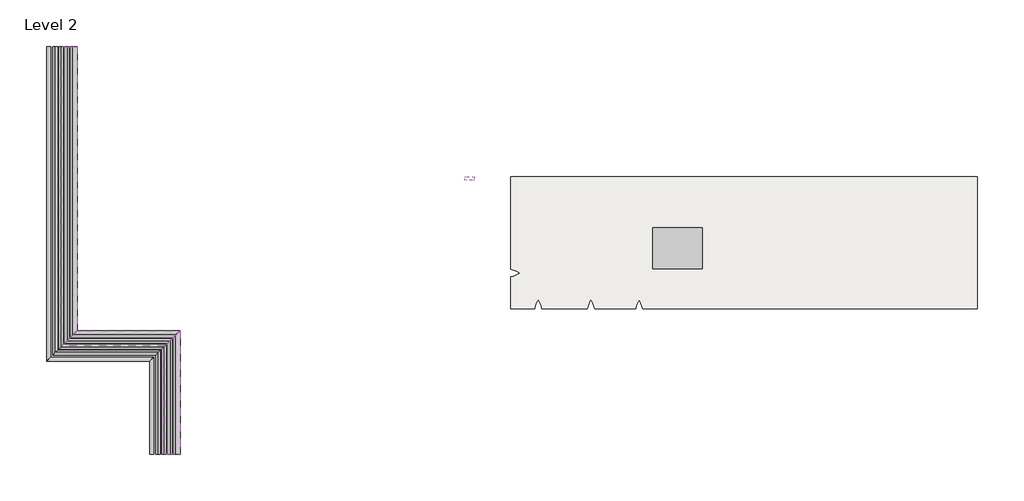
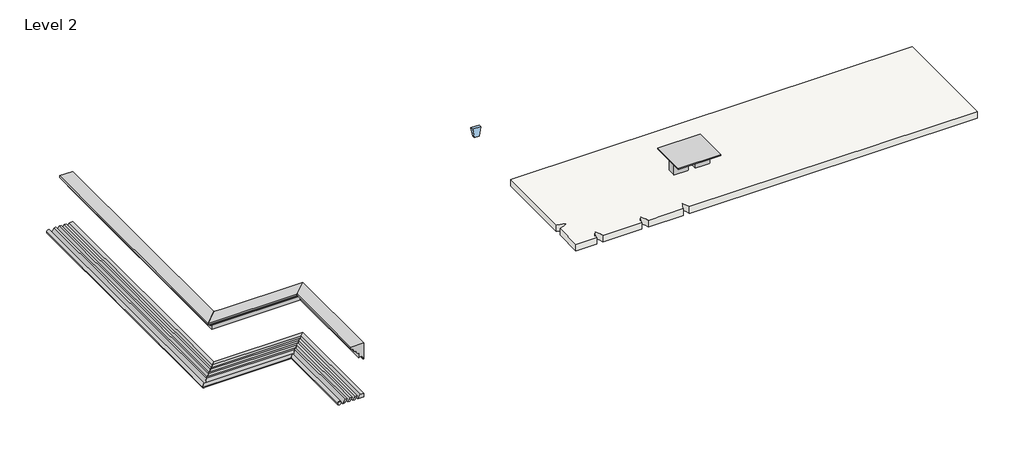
# One storey, incomplete: 6 proxies, 1 furniture element, 1 slab, 1 window.
"""IFC4 building model written with IfcOpenShell, lengths in millimetres."""

from ifc_helpers import new_model, si_unit, point, frame, frame_2d, origin, place, context, project, spatial, polyline, circle_curve, ellipse_curve, trimmed, segment, composite_curve, outline, extrude, faceted_brep, transform, mapped, element, save
from ifc_brep_helpers import plane_surface, cylinder_surface, revolved_surface, advanced_brep
from components import tn_table_a_two_legs_tn_table_a_standard_d0ec0840, window_f5e32f70

model = new_model("IFC4")

# Units and contexts
model_context = context("Model", 3, world=origin())
ifc_project = project(units=[si_unit("LENGTHUNIT", "METRE", prefix="MILLI")], contexts=[model_context])

# Site, building, storey
site = spatial("IfcSite", under=ifc_project)
building = spatial("IfcBuilding", under=site)
storey = spatial("IfcBuildingStorey", under=building, Name="Level 2", Elevation=3048.0)

# Proxies
placement = place(None, origin())
element("IfcBuildingElementProxy", 1, Name="Wall Sweeps", at=placement, inside=storey, context=model_context, shape_type="SolidModel", body=[
    faceted_brep([(-19533.1471749, -3846.1505669, 3657.6), (-19533.1471749, -3846.1505669, 3810.0), (-19685.5471749, -3846.1505669, 3810.0), (-19787.1471749, -3846.1505669, 3657.6), (-19533.1471749, 725.8494331, 3657.6), (-19787.1471749, 471.8494331, 3657.6), (-19685.5471749, 573.4494331, 3810.0), (-19533.1471749, 725.8494331, 3810.0)], [[[0, 1, 2, 3]], [[4, 5, 6, 7]], [[1, 0, 4, 7]], [[2, 1, 7, 6]], [[3, 2, 6, 5]], [[0, 3, 5, 4]]]),
    advanced_brep(
    [(-20511.0471749, -3846.1505669, 3733.8), (-20663.4471749, -3846.1505669, 3733.8), (-20511.0471749, -252.0505669, 3733.8), (-20663.4471749, -404.4505669, 3733.8)],
    [
        (0, 1, circle_curve(frame((-20587.2471749, -3846.1505669, 3733.8), z_axis=(0.0, -1.0, 0.0), x_axis=(-1.0, 0.0, 0.0)), 76.2)),
        (1, 0, circle_curve(frame((-20587.2471749, -3846.1505669, 3733.8), z_axis=(0.0, -1.0, 0.0), x_axis=(-1.0, 0.0, 0.0)), 76.2)),
        (2, 3, ellipse_curve(frame((-20587.2471749, -328.2505669, 3733.8), z_axis=(-0.7071067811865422, 0.7071067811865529, 0.0), x_axis=(-0.7071067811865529, -0.707106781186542, 0.0)), 107.7630735, 76.2)),
        (3, 2, ellipse_curve(frame((-20587.2471749, -328.2505669, 3733.8), z_axis=(-0.7071067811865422, 0.7071067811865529, 0.0), x_axis=(-0.7071067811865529, -0.707106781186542, 0.0)), 107.7630735, 76.2)),
        (0, 2),
        (3, 1),
    ],
    [
        plane_surface(frame((-20666.0128024, -3846.1505669, 3657.6), z_axis=(0.0, -1.0, 0.0), x_axis=(0.0, 0.0, 1.0))),
        plane_surface(frame((-19533.1471749, 725.8494331, 3352.8), z_axis=(-0.7071067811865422, 0.7071067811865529, 0.0), x_axis=(-0.7071067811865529, -0.7071067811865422, 0.0))),
        cylinder_surface(frame((-20587.2471749, -3846.1505669, 3733.8), z_axis=(0.0, -1.0, 0.0), x_axis=(-1.0, 0.0, 0.0)), 76.2),
    ],
    [
        (0, [[1, 2]]),
        (1, [[3, 4]]),
        (2, [[-1, 5, -4, 6]]),
        (2, [[-2, -6, -3, -5]]),
    ],
),
    faceted_brep([(-20358.6471749, -3846.1505669, 3657.6), (-20257.0471749, -3846.1505669, 3810.0), (-20333.2471749, -3846.1505669, 3810.0), (-20434.8471749, -3846.1505669, 3657.6), (-20358.6471749, -99.6505669, 3657.6), (-20434.8471749, -175.8505669, 3657.6), (-20333.2471749, -74.2505669, 3810.0), (-20257.0471749, 1.9494331, 3810.0)], [[[0, 1, 2, 3]], [[4, 5, 6, 7]], [[1, 0, 4, 7]], [[2, 1, 7, 6]], [[3, 2, 6, 5]], [[0, 3, 5, 4]]]),
    faceted_brep([(-20142.7471749, -3846.1505669, 3657.6), (-20041.1471749, -3846.1505669, 3810.0), (-20117.3471749, -3846.1505669, 3810.0), (-20218.9471749, -3846.1505669, 3657.6), (-20142.7471749, 116.2494331, 3657.6), (-20218.9471749, 40.0494331, 3657.6), (-20117.3471749, 141.6494331, 3810.0), (-20041.1471749, 217.8494331, 3810.0)], [[[0, 1, 2, 3]], [[4, 5, 6, 7]], [[1, 0, 4, 7]], [[2, 1, 7, 6]], [[3, 2, 6, 5]], [[0, 3, 5, 4]]]),
    faceted_brep([(-19926.8471749, -3846.1505669, 3657.6), (-19825.2471749, -3846.1505669, 3810.0), (-19901.4471749, -3846.1505669, 3810.0), (-20003.0471749, -3846.1505669, 3657.6), (-19926.8471749, 332.1494331, 3657.6), (-20003.0471749, 255.9494331, 3657.6), (-19901.4471749, 357.5494331, 3810.0), (-19825.2471749, 433.7494331, 3810.0)], [[[0, 1, 2, 3]], [[4, 5, 6, 7]], [[1, 0, 4, 7]], [[2, 1, 7, 6]], [[3, 2, 6, 5]], [[0, 3, 5, 4]]]),
])
element("IfcBuildingElementProxy", 2, Name="Wall Sweeps", at=placement, inside=storey, context=model_context, shape_type="SolidModel", body=[
    faceted_brep([(-19533.1471749, 725.8494331, 3657.6), (-19533.1471749, 725.8494331, 3810.0), (-19685.5471749, 573.4494331, 3810.0), (-19787.1471749, 471.8494331, 3657.6), (-23343.1471749, 725.8494331, 3657.6), (-23597.1471749, 471.8494331, 3657.6), (-23495.5471749, 573.4494331, 3810.0), (-23343.1471749, 725.8494331, 3810.0)], [[[0, 1, 2, 3]], [[4, 5, 6, 7]], [[1, 0, 4, 7]], [[2, 1, 7, 6]], [[3, 2, 6, 5]], [[0, 3, 5, 4]]]),
    advanced_brep(
    [(-20511.0471749, -252.0505669, 3733.8), (-20663.4471749, -404.4505669, 3733.8), (-24321.0471749, -252.0505669, 3733.8), (-24473.4471749, -404.4505669, 3733.8)],
    [
        (0, 1, ellipse_curve(frame((-20587.2471749, -328.2505669, 3733.8), z_axis=(0.7071067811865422, -0.7071067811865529, 0.0), x_axis=(0.7071067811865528, 0.7071067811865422, 0.0)), 107.7630735, 76.2)),
        (1, 0, ellipse_curve(frame((-20587.2471749, -328.2505669, 3733.8), z_axis=(0.7071067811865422, -0.7071067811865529, 0.0), x_axis=(0.7071067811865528, 0.7071067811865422, 0.0)), 107.7630735, 76.2)),
        (2, 3, ellipse_curve(frame((-24397.2471749, -328.2505669, 3733.8), z_axis=(-0.7071067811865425, 0.7071067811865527, 0.0), x_axis=(0.7071067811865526, 0.7071067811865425, 0.0)), 107.7630735, 76.2)),
        (3, 2, ellipse_curve(frame((-24397.2471749, -328.2505669, 3733.8), z_axis=(-0.7071067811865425, 0.7071067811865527, 0.0), x_axis=(0.7071067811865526, 0.7071067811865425, 0.0)), 107.7630735, 76.2)),
        (0, 2),
        (3, 1),
    ],
    [
        plane_surface(frame((-19533.1471749, 725.8494331, 3352.8), z_axis=(0.7071067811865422, -0.7071067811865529, 0.0), x_axis=(-0.7071067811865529, -0.7071067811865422, 0.0))),
        plane_surface(frame((-23343.1471749, 725.8494331, 3962.4), z_axis=(-0.7071067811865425, 0.7071067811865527, 0.0), x_axis=(0.7071067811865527, 0.7071067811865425, 0.0))),
        cylinder_surface(frame((-19533.1471749, -328.2505669, 3733.8), z_axis=(1.0, 0.0, 0.0), x_axis=(0.0, -1.0, 0.0)), 76.2),
    ],
    [
        (0, [[1, 2]]),
        (1, [[3, 4]]),
        (2, [[-1, 5, -4, 6]]),
        (2, [[-2, -6, -3, -5]]),
    ],
),
    faceted_brep([(-20358.6471749, -99.6505669, 3657.6), (-20257.0471749, 1.9494331, 3810.0), (-20333.2471749, -74.2505669, 3810.0), (-20434.8471749, -175.8505669, 3657.6), (-24168.6471749, -99.6505669, 3657.6), (-24244.8471749, -175.8505669, 3657.6), (-24143.2471749, -74.2505669, 3810.0), (-24067.0471749, 1.9494331, 3810.0)], [[[0, 1, 2, 3]], [[4, 5, 6, 7]], [[1, 0, 4, 7]], [[2, 1, 7, 6]], [[3, 2, 6, 5]], [[0, 3, 5, 4]]]),
    faceted_brep([(-20142.7471749, 116.2494331, 3657.6), (-20041.1471749, 217.8494331, 3810.0), (-20117.3471749, 141.6494331, 3810.0), (-20218.9471749, 40.0494331, 3657.6), (-23952.7471749, 116.2494331, 3657.6), (-24028.9471749, 40.0494331, 3657.6), (-23927.3471749, 141.6494331, 3810.0), (-23851.1471749, 217.8494331, 3810.0)], [[[0, 1, 2, 3]], [[4, 5, 6, 7]], [[1, 0, 4, 7]], [[2, 1, 7, 6]], [[3, 2, 6, 5]], [[0, 3, 5, 4]]]),
    faceted_brep([(-19926.8471749, 332.1494331, 3657.6), (-19825.2471749, 433.7494331, 3810.0), (-19901.4471749, 357.5494331, 3810.0), (-20003.0471749, 255.9494331, 3657.6), (-23736.8471749, 332.1494331, 3657.6), (-23813.0471749, 255.9494331, 3657.6), (-23711.4471749, 357.5494331, 3810.0), (-23635.2471749, 433.7494331, 3810.0)], [[[0, 1, 2, 3]], [[4, 5, 6, 7]], [[1, 0, 4, 7]], [[2, 1, 7, 6]], [[3, 2, 6, 5]], [[0, 3, 5, 4]]]),
])
element("IfcBuildingElementProxy", 3, Name="Wall Sweeps", at=placement, inside=storey, context=model_context, shape_type="SolidModel", body=[
    faceted_brep([(-23343.1471749, 725.8494331, 3657.6), (-23343.1471749, 725.8494331, 3810.0), (-23495.5471749, 573.4494331, 3810.0), (-23597.1471749, 471.8494331, 3657.6), (-23343.1471749, 11241.4494331, 3657.6), (-23597.1471749, 11241.4494331, 3657.6), (-23495.5471749, 11241.4494331, 3810.0), (-23343.1471749, 11241.4494331, 3810.0)], [[[0, 1, 2, 3]], [[4, 5, 6, 7]], [[1, 0, 4, 7]], [[2, 1, 7, 6]], [[3, 2, 6, 5]], [[0, 3, 5, 4]]]),
    advanced_brep(
    [(-24321.0471749, -252.0505669, 3733.8), (-24473.4471749, -404.4505669, 3733.8), (-24321.0471749, 11241.4494331, 3733.8), (-24473.4471749, 11241.4494331, 3733.8)],
    [
        (0, 1, ellipse_curve(frame((-24397.2471749, -328.2505669, 3733.8), z_axis=(0.7071067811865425, -0.7071067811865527, 0.0), x_axis=(-0.7071067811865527, -0.7071067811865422, 0.0)), 107.7630735, 76.2)),
        (1, 0, ellipse_curve(frame((-24397.2471749, -328.2505669, 3733.8), z_axis=(0.7071067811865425, -0.7071067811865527, 0.0), x_axis=(-0.7071067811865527, -0.7071067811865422, 0.0)), 107.7630735, 76.2)),
        (2, 3, circle_curve(frame((-24397.2471749, 11241.4494331, 3733.8), z_axis=(0.0, 1.0, 0.0), x_axis=(-1.0, 0.0, 0.0)), 76.2)),
        (3, 2, circle_curve(frame((-24397.2471749, 11241.4494331, 3733.8), z_axis=(0.0, 1.0, 0.0), x_axis=(-1.0, 0.0, 0.0)), 76.2)),
        (0, 2),
        (3, 1),
    ],
    [
        plane_surface(frame((-23343.1471749, 725.8494331, 3962.4), z_axis=(0.7071067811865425, -0.7071067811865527, 0.0), x_axis=(0.7071067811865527, 0.7071067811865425, 0.0))),
        plane_surface(frame((-24476.0128024, 11241.4494331, 3657.6), z_axis=(0.0, 1.0, 0.0), x_axis=(0.0, 0.0, 1.0))),
        cylinder_surface(frame((-24397.2471749, 725.8494331, 3733.8), z_axis=(0.0, -1.0, 0.0), x_axis=(-1.0, 0.0, 0.0)), 76.2),
    ],
    [
        (0, [[1, 2]]),
        (1, [[3, 4]]),
        (2, [[-1, 5, -4, 6]]),
        (2, [[-2, -6, -3, -5]]),
    ],
),
    faceted_brep([(-24168.6471749, -99.6505669, 3657.6), (-24067.0471749, 1.9494331, 3810.0), (-24143.2471749, -74.2505669, 3810.0), (-24244.8471749, -175.8505669, 3657.6), (-24168.6471749, 11241.4494331, 3657.6), (-24244.8471749, 11241.4494331, 3657.6), (-24143.2471749, 11241.4494331, 3810.0), (-24067.0471749, 11241.4494331, 3810.0)], [[[0, 1, 2, 3]], [[4, 5, 6, 7]], [[1, 0, 4, 7]], [[2, 1, 7, 6]], [[3, 2, 6, 5]], [[0, 3, 5, 4]]]),
    faceted_brep([(-23952.7471749, 116.2494331, 3657.6), (-23851.1471749, 217.8494331, 3810.0), (-23927.3471749, 141.6494331, 3810.0), (-24028.9471749, 40.0494331, 3657.6), (-23952.7471749, 11241.4494331, 3657.6), (-24028.9471749, 11241.4494331, 3657.6), (-23927.3471749, 11241.4494331, 3810.0), (-23851.1471749, 11241.4494331, 3810.0)], [[[0, 1, 2, 3]], [[4, 5, 6, 7]], [[1, 0, 4, 7]], [[2, 1, 7, 6]], [[3, 2, 6, 5]], [[0, 3, 5, 4]]]),
    faceted_brep([(-23736.8471749, 332.1494331, 3657.6), (-23635.2471749, 433.7494331, 3810.0), (-23711.4471749, 357.5494331, 3810.0), (-23813.0471749, 255.9494331, 3657.6), (-23736.8471749, 11241.4494331, 3657.6), (-23813.0471749, 11241.4494331, 3657.6), (-23711.4471749, 11241.4494331, 3810.0), (-23635.2471749, 11241.4494331, 3810.0)], [[[0, 1, 2, 3]], [[4, 5, 6, 7]], [[1, 0, 4, 7]], [[2, 1, 7, 6]], [[3, 2, 6, 5]], [[0, 3, 5, 4]]]),
])
element("IfcBuildingElementProxy", 4, Name="Wall Sweeps", at=placement, inside=storey, context=model_context, shape_type="AdvancedBrep", body=[
    advanced_brep(
    [(-19761.7471749, -3846.1505669, 5511.8), (-19736.3471749, -3846.1505669, 5511.8), (-19710.9471749, -3846.1505669, 5537.2), (-19634.7471749, -3846.1505669, 5537.2), (-19634.7471749, -3846.1505669, 5511.8), (-19579.8253223, -3846.1505669, 5435.6), (-19558.5471749, -3846.1505669, 5435.6), (-19558.5471749, -3846.1505669, 5384.8), (-19533.1471749, -3846.1505669, 5384.8), (-19533.1471749, -3846.1505669, 6096.0), (-20091.9471749, -3846.1505669, 6096.0), (-20091.9471749, -3846.1505669, 6019.8), (-19990.3471749, -3846.1505669, 5930.9), (-19888.7471749, -3846.1505669, 5842.0), (-19888.7471749, -3846.1505669, 5816.6), (-19864.9106163, -3846.1505669, 5816.6), (-19825.2471749, -3846.1505669, 5765.8), (-19785.5837335, -3846.1505669, 5715.0), (-19761.7471749, -3846.1505669, 5715.0), (-19761.7471749, 497.2494331, 5511.8), (-19761.7471749, 497.2494331, 5715.0), (-19785.5837335, 473.4128745, 5715.0), (-19825.2471749, 433.7494331, 5765.8), (-19864.9106163, 394.0859916, 5816.6), (-19888.7471749, 370.2494331, 5816.6), (-19888.7471749, 370.2494331, 5842.0), (-19990.3471749, 268.6494331, 5930.9), (-20091.9471749, 167.0494331, 6019.8), (-20091.9471749, 167.0494331, 6096.0), (-19533.1471749, 725.8494331, 6096.0), (-19533.1471749, 725.8494331, 5384.8), (-19558.5471749, 700.4494331, 5384.8), (-19558.5471749, 700.4494331, 5435.6), (-19579.8253223, 679.1712856, 5435.6), (-19634.7471749, 624.2494331, 5511.8), (-19634.7471749, 624.2494331, 5537.2), (-19710.9471749, 548.0494331, 5537.2), (-19736.3471749, 522.6494331, 5511.8)],
    [
        (0, 1),
        (1, 2, circle_curve(frame((-19710.9471749, -3846.1505669, 5511.8), z_axis=(0.0, 1.0, 0.0), x_axis=(-1.0, 0.0, 0.0)), 25.4)),
        (2, 3),
        (3, 4),
        (4, 5, circle_curve(frame((-19660.1471749, -3846.1505669, 5435.6), z_axis=(0.0, 1.0, 0.0), x_axis=(-1.0, 0.0, 0.0)), 80.3218526)),
        (5, 6),
        (6, 7, circle_curve(frame((-19558.5471749, -3846.1505669, 5410.2), z_axis=(0.0, -1.0, 0.0), x_axis=(-1.0, 0.0, 0.0)), 25.4)),
        (7, 8),
        (8, 9),
        (9, 10),
        (10, 11),
        (11, 12, circle_curve(frame((-20102.2659249, -3846.1505669, 5905.5), z_axis=(0.0, 1.0, 0.0), x_axis=(-1.0, 0.0, 0.0)), 114.7648317)),
        (12, 13, circle_curve(frame((-19878.4284249, -3846.1505669, 5956.3), z_axis=(0.0, -1.0, 0.0), x_axis=(-0.13274336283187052, 0.0, 0.9911504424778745)), 114.7648317)),
        (13, 14),
        (14, 15),
        (15, 16, circle_curve(frame((-19812.5471749, -3846.1505669, 5816.6), z_axis=(0.0, -1.0, 0.0), x_axis=(-1.0, 0.0, 0.0)), 52.3634414)),
        (16, 17, circle_curve(frame((-19837.9471749, -3846.1505669, 5715.0), z_axis=(0.0, 1.0, 0.0), x_axis=(-1.0, 0.0, 0.0)), 52.3634414)),
        (17, 18),
        (18, 0),
        (19, 20),
        (20, 21),
        (21, 22, ellipse_curve(frame((-19837.9471749, 421.0494331, 5715.0), z_axis=(0.7071067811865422, -0.7071067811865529, 0.0), x_axis=(0.7071067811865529, 0.707106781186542, 0.0)), 74.0530891, 52.3634414)),
        (22, 23, ellipse_curve(frame((-19812.5471749, 446.4494331, 5816.6), z_axis=(-0.7071067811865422, 0.7071067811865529, 0.0), x_axis=(-0.7071067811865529, -0.707106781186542, 0.0)), 74.0530891, 52.3634414)),
        (23, 24),
        (24, 25),
        (25, 26, ellipse_curve(frame((-19878.4284249, 380.5681831, 5956.3), z_axis=(-0.7071067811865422, 0.7071067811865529, 0.0), x_axis=(-0.7071067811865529, -0.707106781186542, 0.0)), 162.3019815, 114.7648317)),
        (26, 27, ellipse_curve(frame((-20102.2659249, 156.7306831, 5905.5), z_axis=(0.7071067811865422, -0.7071067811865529, 0.0), x_axis=(0.7071067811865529, 0.707106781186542, 0.0)), 162.3019815, 114.7648317)),
        (27, 28),
        (28, 29),
        (29, 30),
        (30, 31),
        (31, 32, ellipse_curve(frame((-19558.5471749, 700.4494331, 5410.2), z_axis=(-0.7071067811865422, 0.7071067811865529, 0.0), x_axis=(-0.7071067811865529, -0.707106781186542, 0.0)), 35.9210245, 25.4)),
        (32, 33),
        (33, 34, ellipse_curve(frame((-19660.1471749, 598.8494331, 5435.6), z_axis=(0.7071067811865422, -0.7071067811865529, 0.0), x_axis=(0.7071067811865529, 0.707106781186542, 0.0)), 113.5922533, 80.3218526)),
        (34, 35),
        (35, 36),
        (36, 37, ellipse_curve(frame((-19710.9471749, 548.0494331, 5511.8), z_axis=(0.7071067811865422, -0.7071067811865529, 0.0), x_axis=(0.7071067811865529, 0.707106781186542, 0.0)), 35.9210245, 25.4)),
        (37, 19),
        (0, 19),
        (37, 1),
        (36, 2),
        (35, 3),
        (34, 4),
        (33, 5),
        (32, 6),
        (31, 7),
        (30, 8),
        (29, 9),
        (28, 10),
        (27, 11),
        (26, 12),
        (25, 13),
        (24, 14),
        (23, 15),
        (22, 16),
        (21, 17),
        (20, 18),
    ],
    [
        plane_surface(frame((-20244.8006018, -3846.1505669, 6096.0), z_axis=(0.0, -1.0, 0.0), x_axis=(0.0, 0.0, 1.0))),
        plane_surface(frame((-19533.1471749, 725.8494331, 5791.2), z_axis=(-0.7071067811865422, 0.7071067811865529, 0.0), x_axis=(-0.7071067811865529, -0.7071067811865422, 0.0))),
        plane_surface(frame((-19761.7471749, -3846.1505669, 5511.8), z_axis=(0.0, 0.0, -1.0), x_axis=(0.0, 1.0, 0.0))),
        revolved_surface(polyline([(-19736.347174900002, 573.4494331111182, 5511.8), (-19736.347174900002, -3846.1505669, 5511.8)]), (-19710.9471749, -3846.1505669, 5511.8), (0.0, 1.0, 0.0)),
        plane_surface(frame((-19710.9471749, -3846.1505669, 5537.2), z_axis=(0.0, 0.0, -1.0), x_axis=(0.0, 1.0, 0.0))),
        plane_surface(frame((-19634.7471749, -3846.1505669, 5537.2), z_axis=(-1.0, 0.0, 0.0), x_axis=(0.0, 1.0, 0.0))),
        revolved_surface(polyline([(-19740.4690275, 679.1712856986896, 5435.6), (-19740.4690275, -3846.1505669, 5435.6)]), (-19660.1471749, -3846.1505669, 5435.6), (0.0, 1.0, 0.0)),
        plane_surface(frame((-19579.8253223, -3846.1505669, 5435.6), z_axis=(0.0, 0.0, -1.0), x_axis=(0.0, 1.0, 0.0))),
        cylinder_surface(frame((-19558.5471749, -3846.1505669, 5410.2), z_axis=(0.0, -1.0, 0.0), x_axis=(-1.0, 0.0, 0.0)), 25.4),
        plane_surface(frame((-19558.5471749, -3846.1505669, 5384.8), z_axis=(0.0, 0.0, -1.0), x_axis=(0.0, 1.0, 0.0))),
        plane_surface(frame((-19533.1471749, -3846.1505669, 5384.8), z_axis=(1.0, 0.0, 0.0), x_axis=(0.0, 1.0, 0.0))),
        plane_surface(frame((-19533.1471749, -3846.1505669, 6096.0), z_axis=(0.0, 0.0, 1.0), x_axis=(0.0, 1.0, 0.0))),
        plane_surface(frame((-20091.9471749, -3846.1505669, 6096.0), z_axis=(-1.0, 0.0, 0.0), x_axis=(0.0, 1.0, 0.0))),
        revolved_surface(polyline([(-20217.030756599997, 271.49551481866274, 5905.5), (-20217.030756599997, -3846.1505669, 5905.5)]), (-20102.2659249, -3846.1505669, 5905.5), (0.0, 1.0, 0.0)),
        cylinder_surface(frame((-19878.4284249, -3846.1505669, 5956.3), z_axis=(0.0, -1.0, 0.0), x_axis=(-0.13274336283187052, 0.0, 0.9911504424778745)), 114.7648317),
        plane_surface(frame((-19888.7471749, -3846.1505669, 5842.0), z_axis=(-1.0, 0.0, 0.0), x_axis=(0.0, 1.0, 0.0))),
        plane_surface(frame((-19888.7471749, -3846.1505669, 5816.6), z_axis=(0.0, 0.0, -1.0), x_axis=(0.0, 1.0, 0.0))),
        cylinder_surface(frame((-19812.5471749, -3846.1505669, 5816.6), z_axis=(0.0, -1.0, 0.0), x_axis=(-1.0, 0.0, 0.0)), 52.3634414),
        revolved_surface(polyline([(-19890.3106163, 473.4128745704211, 5715.0), (-19890.3106163, -3846.1505669, 5715.0)]), (-19837.9471749, -3846.1505669, 5715.0), (0.0, 1.0, 0.0)),
        plane_surface(frame((-19785.5837335, -3846.1505669, 5715.0), z_axis=(0.0, 0.0, -1.0), x_axis=(0.0, 1.0, 0.0))),
        plane_surface(frame((-19761.7471749, -3846.1505669, 5715.0), z_axis=(-1.0, 0.0, 0.0), x_axis=(0.0, 1.0, 0.0))),
    ],
    [
        (0, [[1, 2, 3, 4, 5, 6, 7, 8, 9, 10, 11, 12, 13, 14, 15, 16, 17, 18, 19]]),
        (1, [[20, 21, 22, 23, 24, 25, 26, 27, 28, 29, 30, 31, 32, 33, 34, 35, 36, 37, 38]]),
        (2, [[-1, 39, -38, 40]]),
        (3, [[-2, -40, -37, 41]]),
        (4, [[-3, -41, -36, 42]]),
        (5, [[-4, -42, -35, 43]]),
        (6, [[-5, -43, -34, 44]]),
        (7, [[-6, -44, -33, 45]]),
        (8, [[-7, -45, -32, 46]]),
        (9, [[-8, -46, -31, 47]]),
        (10, [[-9, -47, -30, 48]]),
        (11, [[-10, -48, -29, 49]]),
        (12, [[-11, -49, -28, 50]]),
        (13, [[-12, -50, -27, 51]]),
        (14, [[-13, -51, -26, 52]]),
        (15, [[-14, -52, -25, 53]]),
        (16, [[-15, -53, -24, 54]]),
        (17, [[-16, -54, -23, 55]]),
        (18, [[-17, -55, -22, 56]]),
        (19, [[-18, -56, -21, 57]]),
        (20, [[-19, -57, -20, -39]]),
    ],
),
])
element("IfcBuildingElementProxy", 5, Name="Wall Sweeps", at=placement, inside=storey, context=model_context, shape_type="AdvancedBrep", body=[
    advanced_brep(
    [(-19761.7471749, 497.2494331, 5511.8), (-19736.3471749, 522.6494331, 5511.8), (-19710.9471749, 548.0494331, 5537.2), (-19634.7471749, 624.2494331, 5537.2), (-19634.7471749, 624.2494331, 5511.8), (-19579.8253223, 679.1712856, 5435.6), (-19558.5471749, 700.4494331, 5435.6), (-19558.5471749, 700.4494331, 5384.8), (-19533.1471749, 725.8494331, 5384.8), (-19533.1471749, 725.8494331, 6096.0), (-20091.9471749, 167.0494331, 6096.0), (-20091.9471749, 167.0494331, 6019.8), (-19990.3471749, 268.6494331, 5930.9), (-19888.7471749, 370.2494331, 5842.0), (-19888.7471749, 370.2494331, 5816.6), (-19864.9106163, 394.0859916, 5816.6), (-19825.2471749, 433.7494331, 5765.8), (-19785.5837335, 473.4128745, 5715.0), (-19761.7471749, 497.2494331, 5715.0), (-23571.7471749, 497.2494331, 5511.8), (-23571.7471749, 497.2494331, 5715.0), (-23595.5837335, 473.4128745, 5715.0), (-23635.2471749, 433.7494331, 5765.8), (-23674.9106163, 394.0859916, 5816.6), (-23698.7471749, 370.2494331, 5816.6), (-23698.7471749, 370.2494331, 5842.0), (-23800.3471749, 268.6494331, 5930.9), (-23901.9471749, 167.0494331, 6019.8), (-23901.9471749, 167.0494331, 6096.0), (-23343.1471749, 725.8494331, 6096.0), (-23343.1471749, 725.8494331, 5384.8), (-23368.5471749, 700.4494331, 5384.8), (-23368.5471749, 700.4494331, 5435.6), (-23389.8253223, 679.1712856, 5435.6), (-23444.7471749, 624.2494331, 5511.8), (-23444.7471749, 624.2494331, 5537.2), (-23520.9471749, 548.0494331, 5537.2), (-23546.3471749, 522.6494331, 5511.8), (-23038.3471749, 725.8494331, 6096.0)],
    [
        (0, 1),
        (1, 2, ellipse_curve(frame((-19710.9471749, 548.0494331, 5511.8), z_axis=(-0.7071067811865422, 0.7071067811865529, 0.0), x_axis=(-0.7071067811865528, -0.7071067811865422, 0.0)), 35.9210245, 25.4)),
        (2, 3),
        (3, 4),
        (4, 5, ellipse_curve(frame((-19660.1471749, 598.8494331, 5435.6), z_axis=(-0.7071067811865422, 0.7071067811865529, 0.0), x_axis=(-0.7071067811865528, -0.7071067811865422, 0.0)), 113.5922533, 80.3218526)),
        (5, 6),
        (6, 7, ellipse_curve(frame((-19558.5471749, 700.4494331, 5410.2), z_axis=(0.7071067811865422, -0.7071067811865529, 0.0), x_axis=(0.7071067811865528, 0.7071067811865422, 0.0)), 35.9210245, 25.4)),
        (7, 8),
        (8, 9),
        (9, 10),
        (10, 11),
        (11, 12, ellipse_curve(frame((-20102.2659249, 156.7306831, 5905.5), z_axis=(-0.7071067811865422, 0.7071067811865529, 0.0), x_axis=(-0.7071067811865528, -0.7071067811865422, 0.0)), 162.3019815, 114.7648317)),
        (12, 13, ellipse_curve(frame((-19878.4284249, 380.5681831, 5956.3), z_axis=(0.7071067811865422, -0.7071067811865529, 0.0), x_axis=(0.7071067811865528, 0.7071067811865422, 0.0)), 162.3019815, 114.7648317)),
        (13, 14),
        (14, 15),
        (15, 16, ellipse_curve(frame((-19812.5471749, 446.4494331, 5816.6), z_axis=(0.7071067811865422, -0.7071067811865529, 0.0), x_axis=(0.7071067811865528, 0.7071067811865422, 0.0)), 74.0530891, 52.3634414)),
        (16, 17, ellipse_curve(frame((-19837.9471749, 421.0494331, 5715.0), z_axis=(-0.7071067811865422, 0.7071067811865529, 0.0), x_axis=(-0.7071067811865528, -0.7071067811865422, 0.0)), 74.0530891, 52.3634414)),
        (17, 18),
        (18, 0),
        (19, 20),
        (20, 21),
        (21, 22, ellipse_curve(frame((-23647.9471749, 421.0494331, 5715.0), z_axis=(0.7071067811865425, -0.7071067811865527, 0.0), x_axis=(-0.7071067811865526, -0.7071067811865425, 0.0)), 74.0530891, 52.3634414)),
        (22, 23, ellipse_curve(frame((-23622.5471749, 446.4494331, 5816.6), z_axis=(-0.7071067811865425, 0.7071067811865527, 0.0), x_axis=(0.7071067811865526, 0.7071067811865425, 0.0)), 74.0530891, 52.3634414)),
        (23, 24),
        (24, 25),
        (25, 26, ellipse_curve(frame((-23688.4284249, 380.5681831, 5956.3), z_axis=(-0.7071067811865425, 0.7071067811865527, 0.0), x_axis=(0.7071067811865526, 0.7071067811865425, 0.0)), 162.3019815, 114.7648317)),
        (26, 27, ellipse_curve(frame((-23912.2659249, 156.7306831, 5905.5), z_axis=(0.7071067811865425, -0.7071067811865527, 0.0), x_axis=(-0.7071067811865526, -0.7071067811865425, 0.0)), 162.3019815, 114.7648317)),
        (27, 28),
        (28, 29),
        (29, 30),
        (30, 31),
        (31, 32, ellipse_curve(frame((-23368.5471749, 700.4494331, 5410.2), z_axis=(-0.7071067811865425, 0.7071067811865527, 0.0), x_axis=(0.7071067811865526, 0.7071067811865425, 0.0)), 35.9210245, 25.4)),
        (32, 33),
        (33, 34, ellipse_curve(frame((-23470.1471749, 598.8494331, 5435.6), z_axis=(0.7071067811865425, -0.7071067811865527, 0.0), x_axis=(-0.7071067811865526, -0.7071067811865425, 0.0)), 113.5922533, 80.3218526)),
        (34, 35),
        (35, 36),
        (36, 37, ellipse_curve(frame((-23520.9471749, 548.0494331, 5511.8), z_axis=(0.7071067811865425, -0.7071067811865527, 0.0), x_axis=(-0.7071067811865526, -0.7071067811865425, 0.0)), 35.9210245, 25.4)),
        (37, 19),
        (0, 19),
        (37, 1),
        (36, 2),
        (35, 3),
        (34, 4),
        (33, 5),
        (32, 6),
        (31, 7),
        (30, 8),
        (29, 38),
        (38, 9),
        (28, 10),
        (27, 11),
        (26, 12),
        (25, 13),
        (24, 14),
        (23, 15),
        (22, 16),
        (21, 17),
        (20, 18),
    ],
    [
        plane_surface(frame((-19533.1471749, 725.8494331, 5791.2), z_axis=(0.7071067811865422, -0.7071067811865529, 0.0), x_axis=(-0.7071067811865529, -0.7071067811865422, 0.0))),
        plane_surface(frame((-23343.1471749, 725.8494331, 6400.8), z_axis=(-0.7071067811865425, 0.7071067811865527, 0.0), x_axis=(0.7071067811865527, 0.7071067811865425, 0.0))),
        plane_surface(frame((-19761.7471749, 497.2494331, 5511.8), z_axis=(0.0, 0.0, -1.0), x_axis=(-1.0, 0.0, 0.0))),
        revolved_surface(polyline([(-23546.34717491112, 522.6494331, 5511.8), (-19685.54717488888, 522.6494331, 5511.8)]), (-19533.1471749, 548.0494331, 5511.8), (-1.0, 0.0, 0.0)),
        plane_surface(frame((-19710.9471749, 548.0494331, 5537.2), z_axis=(0.0, 0.0, -1.0), x_axis=(-1.0, 0.0, 0.0))),
        plane_surface(frame((-19634.7471749, 624.2494331, 5537.2), z_axis=(0.0, -1.0, 0.0), x_axis=(-1.0, 0.0, 0.0))),
        revolved_surface(polyline([(-23550.469027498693, 518.5275805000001, 5435.6), (-19579.8253223, 518.5275805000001, 5435.6)]), (-19533.1471749, 598.8494331, 5435.6), (-1.0, 0.0, 0.0)),
        plane_surface(frame((-19579.8253223, 679.1712856, 5435.6), z_axis=(0.0, 0.0, -1.0), x_axis=(-1.0, 0.0, 0.0))),
        cylinder_surface(frame((-19533.1471749, 700.4494331, 5410.2), z_axis=(1.0, 0.0, 0.0), x_axis=(0.0, -1.0, 0.0)), 25.4),
        plane_surface(frame((-19558.5471749, 700.4494331, 5384.8), z_axis=(0.0, 0.0, -1.0), x_axis=(-1.0, 0.0, 0.0))),
        plane_surface(frame((-19533.1471749, 725.8494331, 5384.8), z_axis=(0.0, 1.0, 0.0), x_axis=(-1.0, 0.0, 0.0))),
        plane_surface(frame((-19533.1471749, 725.8494331, 6096.0), z_axis=(0.0, 0.0, 1.0), x_axis=(-1.0, 0.0, 0.0))),
        plane_surface(frame((-20091.9471749, 167.0494331, 6096.0), z_axis=(0.0, -1.0, 0.0), x_axis=(-1.0, 0.0, 0.0))),
        revolved_surface(polyline([(-24027.030756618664, 41.96585139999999, 5905.5), (-19987.501093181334, 41.96585139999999, 5905.5)]), (-19533.1471749, 156.7306831, 5905.5), (-1.0, 0.0, 0.0)),
        cylinder_surface(frame((-19533.1471749, 380.5681831, 5956.3), z_axis=(1.0, 0.0, 0.0), x_axis=(0.0, -0.13274336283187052, 0.9911504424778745)), 114.7648317),
        plane_surface(frame((-19888.7471749, 370.2494331, 5842.0), z_axis=(0.0, -1.0, 0.0), x_axis=(-1.0, 0.0, 0.0))),
        plane_surface(frame((-19888.7471749, 370.2494331, 5816.6), z_axis=(0.0, 0.0, -1.0), x_axis=(-1.0, 0.0, 0.0))),
        cylinder_surface(frame((-19533.1471749, 446.4494331, 5816.6), z_axis=(1.0, 0.0, 0.0), x_axis=(0.0, -1.0, 0.0)), 52.3634414),
        revolved_surface(polyline([(-23700.31061637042, 368.6859917, 5715.0), (-19785.58373342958, 368.6859917, 5715.0)]), (-19533.1471749, 421.0494331, 5715.0), (-1.0, 0.0, 0.0)),
        plane_surface(frame((-19785.5837335, 473.4128745, 5715.0), z_axis=(0.0, 0.0, -1.0), x_axis=(-1.0, 0.0, 0.0))),
        plane_surface(frame((-19761.7471749, 497.2494331, 5715.0), z_axis=(0.0, -1.0, 0.0), x_axis=(-1.0, 0.0, 0.0))),
    ],
    [
        (0, [[1, 2, 3, 4, 5, 6, 7, 8, 9, 10, 11, 12, 13, 14, 15, 16, 17, 18, 19]]),
        (1, [[20, 21, 22, 23, 24, 25, 26, 27, 28, 29, 30, 31, 32, 33, 34, 35, 36, 37, 38]]),
        (2, [[-1, 39, -38, 40]]),
        (3, [[-2, -40, -37, 41]]),
        (4, [[-3, -41, -36, 42]]),
        (5, [[-4, -42, -35, 43]]),
        (6, [[-5, -43, -34, 44]]),
        (7, [[-6, -44, -33, 45]]),
        (8, [[-7, -45, -32, 46]]),
        (9, [[-8, -46, -31, 47]]),
        (10, [[-9, -47, -30, 48, 49]]),
        (11, [[-10, -49, -48, -29, 50]]),
        (12, [[-11, -50, -28, 51]]),
        (13, [[-12, -51, -27, 52]]),
        (14, [[-13, -52, -26, 53]]),
        (15, [[-14, -53, -25, 54]]),
        (16, [[-15, -54, -24, 55]]),
        (17, [[-16, -55, -23, 56]]),
        (18, [[-17, -56, -22, 57]]),
        (19, [[-18, -57, -21, 58]]),
        (20, [[-19, -58, -20, -39]]),
    ],
),
])
element("IfcBuildingElementProxy", 6, Name="Wall Sweeps", at=placement, inside=storey, context=model_context, shape_type="AdvancedBrep", body=[
    advanced_brep(
    [(-23571.7471749, 497.2494331, 5511.8), (-23546.3471749, 522.6494331, 5511.8), (-23520.9471749, 548.0494331, 5537.2), (-23444.7471749, 624.2494331, 5537.2), (-23444.7471749, 624.2494331, 5511.8), (-23389.8253223, 679.1712856, 5435.6), (-23368.5471749, 700.4494331, 5435.6), (-23368.5471749, 700.4494331, 5384.8), (-23343.1471749, 725.8494331, 5384.8), (-23343.1471749, 725.8494331, 6096.0), (-23901.9471749, 167.0494331, 6096.0), (-23901.9471749, 167.0494331, 6019.8), (-23800.3471749, 268.6494331, 5930.9), (-23698.7471749, 370.2494331, 5842.0), (-23698.7471749, 370.2494331, 5816.6), (-23674.9106163, 394.0859916, 5816.6), (-23635.2471749, 433.7494331, 5765.8), (-23595.5837335, 473.4128745, 5715.0), (-23571.7471749, 497.2494331, 5715.0), (-23571.7471749, 11241.4494331, 5511.8), (-23571.7471749, 11241.4494331, 5715.0), (-23595.5837335, 11241.4494331, 5715.0), (-23635.2471749, 11241.4494331, 5765.8), (-23674.9106163, 11241.4494331, 5816.6), (-23698.7471749, 11241.4494331, 5816.6), (-23698.7471749, 11241.4494331, 5842.0), (-23800.3471749, 11241.4494331, 5930.9), (-23901.9471749, 11241.4494331, 6019.8), (-23901.9471749, 11241.4494331, 6096.0), (-23343.1471749, 11241.4494331, 6096.0), (-23343.1471749, 11241.4494331, 5384.8), (-23368.5471749, 11241.4494331, 5384.8), (-23368.5471749, 11241.4494331, 5435.6), (-23389.8253223, 11241.4494331, 5435.6), (-23444.7471749, 11241.4494331, 5511.8), (-23444.7471749, 11241.4494331, 5537.2), (-23520.9471749, 11241.4494331, 5537.2), (-23546.3471749, 11241.4494331, 5511.8)],
    [
        (0, 1),
        (1, 2, ellipse_curve(frame((-23520.9471749, 548.0494331, 5511.8), z_axis=(-0.7071067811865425, 0.7071067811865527, 0.0), x_axis=(0.7071067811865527, 0.7071067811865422, 0.0)), 35.9210245, 25.4)),
        (2, 3),
        (3, 4),
        (4, 5, ellipse_curve(frame((-23470.1471749, 598.8494331, 5435.6), z_axis=(-0.7071067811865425, 0.7071067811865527, 0.0), x_axis=(0.7071067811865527, 0.7071067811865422, 0.0)), 113.5922533, 80.3218526)),
        (5, 6),
        (6, 7, ellipse_curve(frame((-23368.5471749, 700.4494331, 5410.2), z_axis=(0.7071067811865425, -0.7071067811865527, 0.0), x_axis=(-0.7071067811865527, -0.7071067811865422, 0.0)), 35.9210245, 25.4)),
        (7, 8),
        (8, 9),
        (9, 10),
        (10, 11),
        (11, 12, ellipse_curve(frame((-23912.2659249, 156.7306831, 5905.5), z_axis=(-0.7071067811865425, 0.7071067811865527, 0.0), x_axis=(0.7071067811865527, 0.7071067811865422, 0.0)), 162.3019815, 114.7648317)),
        (12, 13, ellipse_curve(frame((-23688.4284249, 380.5681831, 5956.3), z_axis=(0.7071067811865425, -0.7071067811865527, 0.0), x_axis=(-0.7071067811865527, -0.7071067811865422, 0.0)), 162.3019815, 114.7648317)),
        (13, 14),
        (14, 15),
        (15, 16, ellipse_curve(frame((-23622.5471749, 446.4494331, 5816.6), z_axis=(0.7071067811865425, -0.7071067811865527, 0.0), x_axis=(-0.7071067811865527, -0.7071067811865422, 0.0)), 74.0530891, 52.3634414)),
        (16, 17, ellipse_curve(frame((-23647.9471749, 421.0494331, 5715.0), z_axis=(-0.7071067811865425, 0.7071067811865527, 0.0), x_axis=(0.7071067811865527, 0.7071067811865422, 0.0)), 74.0530891, 52.3634414)),
        (17, 18),
        (18, 0),
        (19, 20),
        (20, 21),
        (21, 22, circle_curve(frame((-23647.9471749, 11241.4494331, 5715.0), z_axis=(0.0, -1.0, 0.0), x_axis=(-1.0, 0.0, 0.0)), 52.3634414)),
        (22, 23, circle_curve(frame((-23622.5471749, 11241.4494331, 5816.6), z_axis=(0.0, 1.0, 0.0), x_axis=(-1.0, 0.0, 0.0)), 52.3634414)),
        (23, 24),
        (24, 25),
        (25, 26, circle_curve(frame((-23688.4284249, 11241.4494331, 5956.3), z_axis=(0.0, 1.0, 0.0), x_axis=(-0.13274336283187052, 0.0, 0.9911504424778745)), 114.7648317)),
        (26, 27, circle_curve(frame((-23912.2659249, 11241.4494331, 5905.5), z_axis=(0.0, -1.0, 0.0), x_axis=(-1.0, 0.0, 0.0)), 114.7648317)),
        (27, 28),
        (28, 29),
        (29, 30),
        (30, 31),
        (31, 32, circle_curve(frame((-23368.5471749, 11241.4494331, 5410.2), z_axis=(0.0, 1.0, 0.0), x_axis=(-1.0, 0.0, 0.0)), 25.4)),
        (32, 33),
        (33, 34, circle_curve(frame((-23470.1471749, 11241.4494331, 5435.6), z_axis=(0.0, -1.0, 0.0), x_axis=(-1.0, 0.0, 0.0)), 80.3218526)),
        (34, 35),
        (35, 36),
        (36, 37, circle_curve(frame((-23520.9471749, 11241.4494331, 5511.8), z_axis=(0.0, -1.0, 0.0), x_axis=(-1.0, 0.0, 0.0)), 25.4)),
        (37, 19),
        (0, 19),
        (37, 1),
        (36, 2),
        (35, 3),
        (34, 4),
        (33, 5),
        (32, 6),
        (31, 7),
        (30, 8),
        (29, 9),
        (28, 10),
        (27, 11),
        (26, 12),
        (25, 13),
        (24, 14),
        (23, 15),
        (22, 16),
        (21, 17),
        (20, 18),
    ],
    [
        plane_surface(frame((-23343.1471749, 725.8494331, 6400.8), z_axis=(0.7071067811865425, -0.7071067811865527, 0.0), x_axis=(0.7071067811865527, 0.7071067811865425, 0.0))),
        plane_surface(frame((-24054.8006018, 11241.4494331, 6096.0), z_axis=(0.0, 1.0, 0.0), x_axis=(0.0, 0.0, 1.0))),
        plane_surface(frame((-23571.7471749, 497.2494331, 5511.8), z_axis=(0.0, 0.0, -1.0), x_axis=(0.0, 1.0, 0.0))),
        revolved_surface(polyline([(-23546.347174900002, 11241.4494331, 5511.8), (-23546.347174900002, 522.649433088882, 5511.8)]), (-23520.9471749, 725.8494331, 5511.8), (0.0, 1.0, 0.0)),
        plane_surface(frame((-23520.9471749, 548.0494331, 5537.2), z_axis=(0.0, 0.0, -1.0), x_axis=(0.0, 1.0, 0.0))),
        plane_surface(frame((-23444.7471749, 624.2494331, 5537.2), z_axis=(-1.0, 0.0, 0.0), x_axis=(0.0, 1.0, 0.0))),
        revolved_surface(polyline([(-23550.4690275, 11241.4494331, 5435.6), (-23550.4690275, 518.5275805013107, 5435.6)]), (-23470.1471749, 725.8494331, 5435.6), (0.0, 1.0, 0.0)),
        plane_surface(frame((-23389.8253223, 679.1712856, 5435.6), z_axis=(0.0, 0.0, -1.0), x_axis=(0.0, 1.0, 0.0))),
        cylinder_surface(frame((-23368.5471749, 725.8494331, 5410.2), z_axis=(0.0, -1.0, 0.0), x_axis=(-1.0, 0.0, 0.0)), 25.4),
        plane_surface(frame((-23368.5471749, 700.4494331, 5384.8), z_axis=(0.0, 0.0, -1.0), x_axis=(0.0, 1.0, 0.0))),
        plane_surface(frame((-23343.1471749, 725.8494331, 5384.8), z_axis=(1.0, 0.0, 0.0), x_axis=(0.0, 1.0, 0.0))),
        plane_surface(frame((-23343.1471749, 725.8494331, 6096.0), z_axis=(0.0, 0.0, 1.0), x_axis=(0.0, 1.0, 0.0))),
        plane_surface(frame((-23901.9471749, 167.0494331, 6096.0), z_axis=(-1.0, 0.0, 0.0), x_axis=(0.0, 1.0, 0.0))),
        revolved_surface(polyline([(-24027.030756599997, 11241.4494331, 5905.5), (-24027.030756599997, 41.96585138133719, 5905.5)]), (-23912.2659249, 725.8494331, 5905.5), (0.0, 1.0, 0.0)),
        cylinder_surface(frame((-23688.4284249, 725.8494331, 5956.3), z_axis=(0.0, -1.0, 0.0), x_axis=(-0.13274336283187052, 0.0, 0.9911504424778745)), 114.7648317),
        plane_surface(frame((-23698.7471749, 370.2494331, 5842.0), z_axis=(-1.0, 0.0, 0.0), x_axis=(0.0, 1.0, 0.0))),
        plane_surface(frame((-23698.7471749, 370.2494331, 5816.6), z_axis=(0.0, 0.0, -1.0), x_axis=(0.0, 1.0, 0.0))),
        cylinder_surface(frame((-23622.5471749, 725.8494331, 5816.6), z_axis=(0.0, -1.0, 0.0), x_axis=(-1.0, 0.0, 0.0)), 52.3634414),
        revolved_surface(polyline([(-23700.3106163, 11241.4494331, 5715.0), (-23700.3106163, 368.6859916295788, 5715.0)]), (-23647.9471749, 725.8494331, 5715.0), (0.0, 1.0, 0.0)),
        plane_surface(frame((-23595.5837335, 473.4128745, 5715.0), z_axis=(0.0, 0.0, -1.0), x_axis=(0.0, 1.0, 0.0))),
        plane_surface(frame((-23571.7471749, 497.2494331, 5715.0), z_axis=(-1.0, 0.0, 0.0), x_axis=(0.0, 1.0, 0.0))),
    ],
    [
        (0, [[1, 2, 3, 4, 5, 6, 7, 8, 9, 10, 11, 12, 13, 14, 15, 16, 17, 18, 19]]),
        (1, [[20, 21, 22, 23, 24, 25, 26, 27, 28, 29, 30, 31, 32, 33, 34, 35, 36, 37, 38]]),
        (2, [[-1, 39, -38, 40]]),
        (3, [[-2, -40, -37, 41]]),
        (4, [[-3, -41, -36, 42]]),
        (5, [[-4, -42, -35, 43]]),
        (6, [[-5, -43, -34, 44]]),
        (7, [[-6, -44, -33, 45]]),
        (8, [[-7, -45, -32, 46]]),
        (9, [[-8, -46, -31, 47]]),
        (10, [[-9, -47, -30, 48]]),
        (11, [[-10, -48, -29, 49]]),
        (12, [[-11, -49, -28, 50]]),
        (13, [[-12, -50, -27, 51]]),
        (14, [[-13, -51, -26, 52]]),
        (15, [[-14, -52, -25, 53]]),
        (16, [[-15, -53, -24, 54]]),
        (17, [[-16, -54, -23, 55]]),
        (18, [[-17, -55, -22, 56]]),
        (19, [[-18, -56, -21, 57]]),
        (20, [[-19, -57, -20, -39]]),
    ],
),
])

# Furniture
tn_table_a_two_legs_tn_table_a_standard_shape = tn_table_a_two_legs_tn_table_a_standard_d0ec0840(model_context)
element("IfcFurniture", 7, ObjectType="tn_table_A_two_legs : tn_table_A_standard", at=placement, inside=storey, context=model_context, shape_type="MappedRepresentation", body=[
    mapped(tn_table_a_two_legs_tn_table_a_standard_shape, transform((-593.4299068, 3775.3361552, 3048.0), x_axis=(1.0, 0.0, 0.0), y_axis=(0.0, 1.0, 0.0), z_axis=(0.0, 0.0, 1.0))),
])

# Slab
element("IfcSlab", 8, ObjectType="Generic - 12\"", at=placement, inside=storey, context=model_context, shape_type="SweptSolid", body=[
    extrude(outline(composite_curve([segment(polyline([(-7299.0299068, 6416.9361552), (9972.9700932, 6416.9361552), (9972.9700932, 1540.1361552), (-2420.2800046, 1540.1361552)]), True, "CONTINUOUS"), segment(trimmed(circle_curve(frame_2d((-3025.0987543, 1463.9361552)), 609.6), [point((-2420.2800046, 1540.1361552))], [point((-2549.2299068, 1844.9361552))], True, "CARTESIAN"), True, "CONTINUOUS"), segment(trimmed(circle_curve(frame_2d((-2073.3610594, 1463.9361552)), 609.6), [point((-2549.2299068, 1844.9361552))], [point((-2678.1798091, 1540.1361552))], True, "CARTESIAN"), True, "CONTINUOUS"), segment(polyline([(-2678.1798091, 1540.1361552), (-4195.6191086, 1540.1361552)]), True, "CONTINUOUS"), segment(trimmed(circle_curve(frame_2d((-4803.0987543, 1489.3361552)), 609.6), [point((-4195.6191086, 1540.1361552))], [point((-4327.2299068, 1870.3361552))], True, "CARTESIAN"), True, "CONTINUOUS"), segment(trimmed(circle_curve(frame_2d((-3851.3610594, 1489.3361552)), 609.6), [point((-4327.2299068, 1870.3361552))], [point((-4458.8407051, 1540.1361552))], True, "CARTESIAN"), True, "CONTINUOUS"), segment(polyline([(-4458.8407051, 1540.1361552), (-6151.4191086, 1540.1361552)]), True, "CONTINUOUS"), segment(trimmed(circle_curve(frame_2d((-6758.8987543, 1489.3361552)), 609.6), [point((-6151.4191086, 1540.1361552))], [point((-6283.0299068, 1870.3361552))], True, "CARTESIAN"), True, "CONTINUOUS"), segment(trimmed(circle_curve(frame_2d((-5807.1610594, 1489.3361552)), 609.6), [point((-6283.0299068, 1870.3361552))], [point((-6414.6407051, 1540.1361552))], True, "CARTESIAN"), True, "CONTINUOUS"), segment(polyline([(-6414.6407051, 1540.1361552), (-7299.0299068, 1540.1361552), (-7299.0299068, 2729.3253569)]), True, "CONTINUOUS"), segment(trimmed(circle_curve(frame_2d((-7349.8299068, 3336.8050027)), 609.6), [point((-7299.0299068, 2729.3253569))], [point((-6968.8299068, 2860.9361552))], True, "CARTESIAN"), True, "CONTINUOUS"), segment(trimmed(circle_curve(frame_2d((-7349.8299068, 2385.0673077)), 609.6), [point((-6968.8299068, 2860.9361552))], [point((-7299.0299068, 2992.5469535))], True, "CARTESIAN"), True, "CONTINUOUS"), segment(polyline([(-7299.0299068, 2992.5469535), (-7299.0299068, 6416.9361552)]), True, "CONTINUOUS")], self_intersect=False)), frame((0.0, 0.0, 2743.2), z_axis=(0.0, 0.0, 1.0), x_axis=(1.0, 0.0, 0.0)), (0.0, 0.0, 1.0), 304.8),
])

# Window
window_shape = window_f5e32f70(model_context)
element("IfcWindow", 9, ObjectType="tn_window_3_keystone : tn_window_3_keystone", at=placement, inside=storey, context=model_context, shape_type="MappedRepresentation", body=[
    mapped(window_shape, transform((-8823.0299068, 6518.5361552, 2858.922922), x_axis=(-1.0, 0.0, 0.0), y_axis=(0.0, -1.0, 0.0), z_axis=(0.0, 0.0, 1.0))),
])

save(model, "model.ifc")
